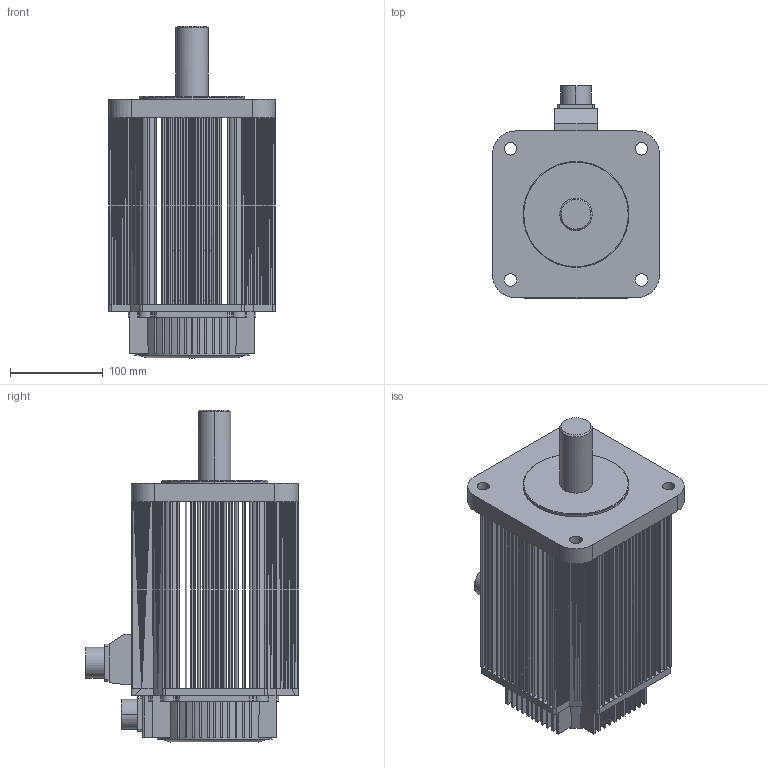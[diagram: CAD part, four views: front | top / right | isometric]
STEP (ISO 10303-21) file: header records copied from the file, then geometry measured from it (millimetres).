
FILE_DESCRIPTION (( 'STEP AP203' ), '1' );
FILE_NAME ('UMM-0050EA-B3_UMM-0050CA-B3.STEP', '2019-04-18T07:33:42', ( '' ), ( '' ), 'SwSTEP 2.0', 'SolidWorks 2017', '' );
FILE_SCHEMA (( 'CONFIG_CONTROL_DESIGN' ));
Length unit declared in the file: millimetre
Products named in the file (1): UMM-0050EA-B3_UMM-0050CA-B3
Bounding box: 180 x 229 x 358 mm (x, y, z)
Surface area: 415518.3 mm2 (no closed solid volume)
Topology: 0 solids, 4 shells, 1204 faces, 3257 edges, 2034 vertices
Faces by surface type: plane 713, cylinder 481, cone 8, bspline 2
Entity records: 40838 total; most frequent: CARTESIAN_POINT 13313, ORIENTED_EDGE 6262, DIRECTION 4618, EDGE_CURVE 3257, VERTEX_POINT 2034, LINE 1688, VECTOR 1688, AXIS2_PLACEMENT_3D 1465
